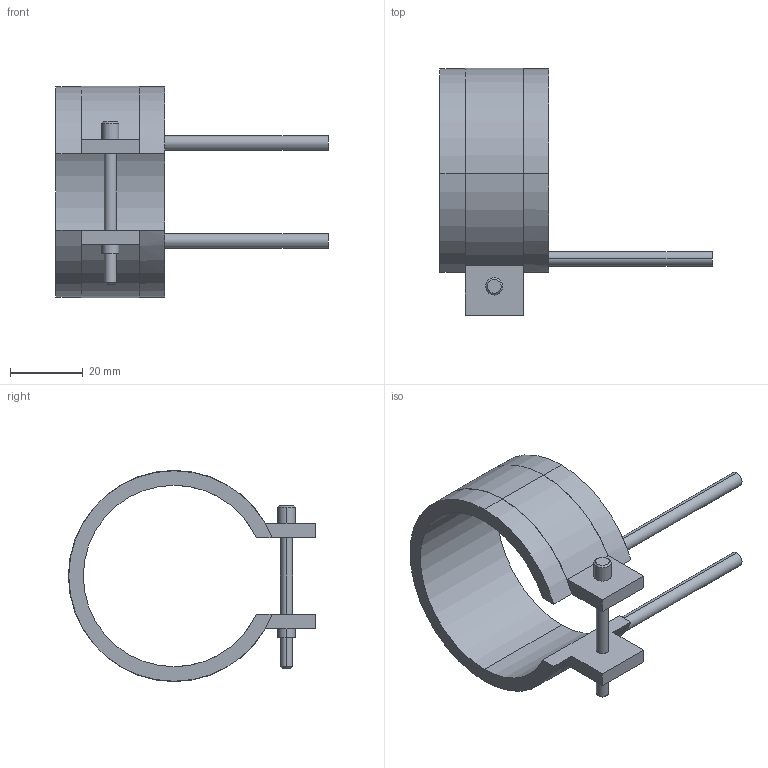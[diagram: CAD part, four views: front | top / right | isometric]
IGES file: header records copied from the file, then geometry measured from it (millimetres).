
Start section: START RECORD GO HERE.
Global section: file name: 14050030.igs; native system: DASSAULT SYSTEMES CATIA V5 R20 - www.3ds.com; preprocessor: CATIA Version 5 Release 20 ; author: Utente; organization: NB04-ASUS; date: 20210331.135431; units: millimetre
Bounding box: 75 x 68.1 x 58.2 mm (x, y, z)
Surface area: 12911.7 mm2 (no closed solid volume)
Topology: 0 solids, 0 shells, 45 faces, 232 edges, 232 vertices
Faces by surface type: revolution 28, plane 17
